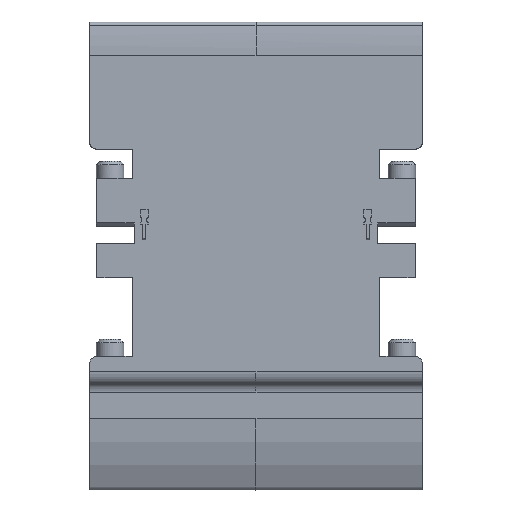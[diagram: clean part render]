
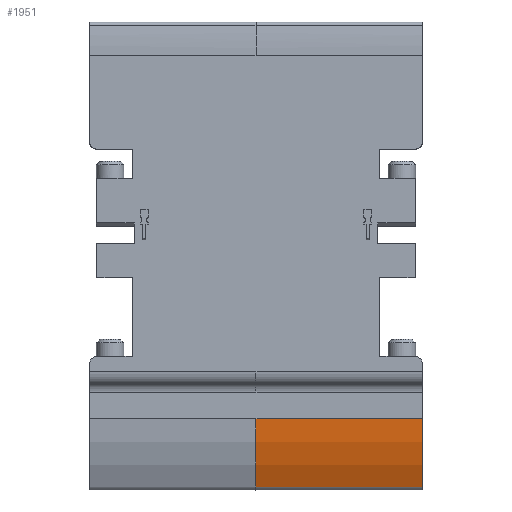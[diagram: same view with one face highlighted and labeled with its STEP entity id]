
A CAD part, top view. The second image highlights one B-rep face of the part: STEP entity #1951.
In plain terms, the highlighted cylindrical face has radius 22.8 mm (diameter 45.6 mm), a partial arc.
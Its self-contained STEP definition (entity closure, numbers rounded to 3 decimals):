
#1884=CARTESIAN_POINT('',(21.3,-30.557,-3.98));
#1885=VERTEX_POINT('',#1884);
#1901=CARTESIAN_POINT('',(45.6,-30.557,-3.98));
#1902=VERTEX_POINT('',#1901);
#1910=CARTESIAN_POINT('',(45.6,-30.557,-3.98));
#1911=DIRECTION('',(-1.,0.,0.));
#1912=VECTOR('',#1911,24.3);
#1913=LINE('',#1910,#1912);
#1914=EDGE_CURVE('',#1902,#1885,#1913,.T.);
#1919=CARTESIAN_POINT('',(40.74,-20.619,-24.5));
#1920=DIRECTION('',(1.,0.,0.));
#1921=DIRECTION('',(0.,0.975,0.224));
#1922=AXIS2_PLACEMENT_3D('',#1919,#1920,#1921);
#1923=CYLINDRICAL_SURFACE('',#1922,22.8);
#1924=CARTESIAN_POINT('',(21.3,-20.619,-1.7));
#1925=VERTEX_POINT('',#1924);
#1926=CARTESIAN_POINT('',(21.3,-20.619,-24.5));
#1927=DIRECTION('',(-1.,0.,0.));
#1928=DIRECTION('',(0.,-0.9,-0.436));
#1929=AXIS2_PLACEMENT_3D('',#1926,#1927,#1928);
#1930=CIRCLE('',#1929,22.8);
#1931=EDGE_CURVE('',#1885,#1925,#1930,.T.);
#1932=ORIENTED_EDGE('',*,*,#1931,.F.);
#1933=ORIENTED_EDGE('',*,*,#1914,.F.);
#1934=CARTESIAN_POINT('',(45.6,-20.619,-1.7));
#1935=VERTEX_POINT('',#1934);
#1936=CARTESIAN_POINT('',(45.6,-20.619,-24.5));
#1937=DIRECTION('',(-1.,0.,0.));
#1938=DIRECTION('',(0.,-1.,0.));
#1939=AXIS2_PLACEMENT_3D('',#1936,#1937,#1938);
#1940=ELLIPSE('',#1939,22.8,22.8);
#1941=EDGE_CURVE('',#1902,#1935,#1940,.T.);
#1942=ORIENTED_EDGE('',*,*,#1941,.T.);
#1943=CARTESIAN_POINT('',(45.6,-20.619,-1.7));
#1944=DIRECTION('',(-1.,0.,0.));
#1945=VECTOR('',#1944,24.3);
#1946=LINE('',#1943,#1945);
#1947=EDGE_CURVE('',#1935,#1925,#1946,.T.);
#1948=ORIENTED_EDGE('',*,*,#1947,.T.);
#1949=EDGE_LOOP('',(#1932,#1933,#1942,#1948));
#1950=FACE_OUTER_BOUND('',#1949,.T.);
#1951=ADVANCED_FACE('',(#1950),#1923,.T.);
